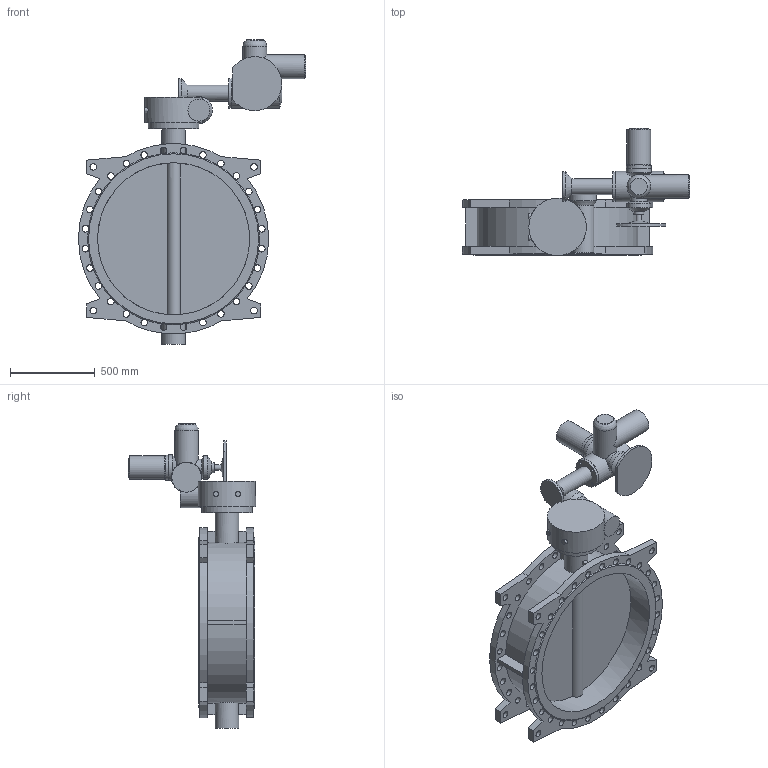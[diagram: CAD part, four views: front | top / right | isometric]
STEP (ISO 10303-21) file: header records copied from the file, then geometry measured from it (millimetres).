
FILE_DESCRIPTION(('STEP AP203'), '1');
FILE_NAME('Çàòâîð 021F.Y DN900 +ðåäóêòîð+ÌÒ903.À30-34', '', ('UNSPECIFIED'), ('UNSPECIFIED'), 'ASCON STEP Converter 1.6', 'ASCON Math Kernel', '');
FILE_SCHEMA(('CONFIG_CONTROL_DESIGN'));
Length unit declared in the file: millimetre
Bounding box: 1342.5 x 752 x 1801 mm (x, y, z)
Volume: 119418747.2 mm3; surface area: 6571509.9 mm2
Topology: 1 solids, 1 shells, 240 faces, 753 edges, 497 vertices
Faces by surface type: cylinder 129, plane 97, cone 13, torus 1
Full cylindrical faces by diameter (mm): 14 x12, 18 x12, 30 x2, 32 x1, 39 x64, 60 x1, 95 x1, 100 x1, 130 x1, 140 x6, 147 x1, 151 x1, 160 x1, 175 x1, 180 x1, 300 x1, 340 x1, 900 x2
Entity records: 16634 total; most frequent: CARTESIAN_POINT 8223, DIRECTION 1288, ORIENTED_EDGE 1260, EDGE_CURVE 630, AXIS2_PLACEMENT_3D 567, VERTEX_POINT 497, EDGE_LOOP 475, CIRCLE 326
